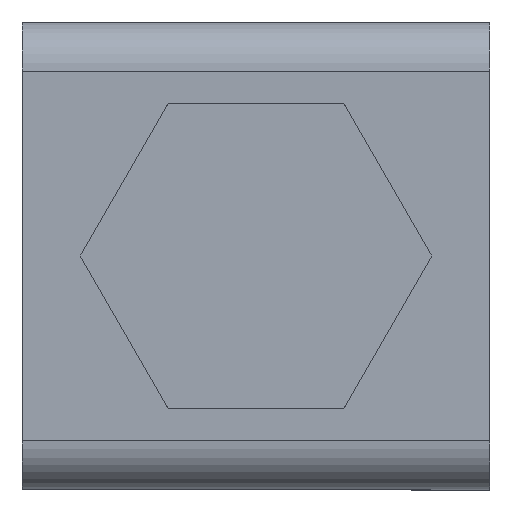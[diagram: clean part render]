
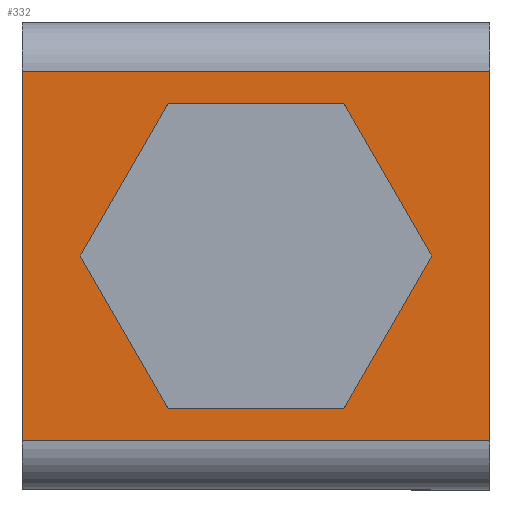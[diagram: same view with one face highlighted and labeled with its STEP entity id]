
A CAD part, front view. The second image highlights one B-rep face of the part: STEP entity #332.
In plain terms, the highlighted planar face has unit normal (0, -1, 0) as drawn and (0, 1, 0) by its records, which use the part's own axes.
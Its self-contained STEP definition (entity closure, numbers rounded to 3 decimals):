
#1 = VERTEX_POINT ( 'NONE', #73 ) ;
#7 = VERTEX_POINT ( 'NONE', #1986 ) ;
#26 = VERTEX_POINT ( 'NONE', #867 ) ;
#33 = VERTEX_POINT ( 'NONE', #874 ) ;
#73 = CARTESIAN_POINT ( 'NONE',  ( 7.9, 7., 10. ) ) ;
#151 = CARTESIAN_POINT ( 'NONE',  ( -7.9, 7., -10. ) ) ;
#152 = CARTESIAN_POINT ( 'NONE',  ( 7.9, 7., -10. ) ) ;
#332 = ADVANCED_FACE ( 'NONE', ( #1614, #1615 ), #1619, .T. ) ;
#441 = ORIENTED_EDGE ( 'NONE', *, *, #2204, .F. ) ;
#442 = ORIENTED_EDGE ( 'NONE', *, *, #2206, .F. ) ;
#443 = ORIENTED_EDGE ( 'NONE', *, *, #2237, .F. ) ;
#444 = ORIENTED_EDGE ( 'NONE', *, *, #2217, .F. ) ;
#445 = ORIENTED_EDGE ( 'NONE', *, *, #2180, .T. ) ;
#446 = ORIENTED_EDGE ( 'NONE', *, *, #2181, .T. ) ;
#472 = VECTOR ( 'NONE', #1413, 1000. ) ;
#538 = CIRCLE ( 'NONE', #544, 4.25 ) ;
#544 = AXIS2_PLACEMENT_3D ( 'NONE', #1376, #1377, #1378 ) ;
#546 = CIRCLE ( 'NONE', #552, 4.25 ) ;
#550 = VECTOR ( 'NONE', #1482, 1000. ) ;
#552 = AXIS2_PLACEMENT_3D ( 'NONE', #1381, #1382, #1383 ) ;
#867 = CARTESIAN_POINT ( 'NONE',  ( -7.9, 7., 10. ) ) ;
#874 = CARTESIAN_POINT ( 'NONE',  ( 0., 7., 4.25 ) ) ;
#1009 = VERTEX_POINT ( 'NONE', #151 ) ;
#1010 = VERTEX_POINT ( 'NONE', #152 ) ;
#1295 = LINE ( 'NONE', #1304, #1832 ) ;
#1298 = LINE ( 'NONE', #1306, #1831 ) ;
#1304 = CARTESIAN_POINT ( 'NONE',  ( -10., 7., 10. ) ) ;
#1305 = DIRECTION ( 'NONE',  ( 1., 0., 0. ) ) ;
#1306 = CARTESIAN_POINT ( 'NONE',  ( 7.9, 7., 10. ) ) ;
#1307 = DIRECTION ( 'NONE',  ( 0., 0., -1. ) ) ;
#1376 = CARTESIAN_POINT ( 'NONE',  ( 0., 7., 0. ) ) ;
#1377 = DIRECTION ( 'NONE',  ( 0., 1., 0. ) ) ;
#1378 = DIRECTION ( 'NONE',  ( 0., 0., 1. ) ) ;
#1381 = CARTESIAN_POINT ( 'NONE',  ( 0., 7., 0. ) ) ;
#1382 = DIRECTION ( 'NONE',  ( 0., 1., 0. ) ) ;
#1383 = DIRECTION ( 'NONE',  ( 0., 0., 1. ) ) ;
#1411 = LINE ( 'NONE', #1412, #472 ) ;
#1412 = CARTESIAN_POINT ( 'NONE',  ( -7.9, 7., 10. ) ) ;
#1413 = DIRECTION ( 'NONE',  ( 0., 0., -1. ) ) ;
#1480 = LINE ( 'NONE', #1481, #550 ) ;
#1481 = CARTESIAN_POINT ( 'NONE',  ( -10., 7., -10. ) ) ;
#1482 = DIRECTION ( 'NONE',  ( 1., 0., 0. ) ) ;
#1611 = CARTESIAN_POINT ( 'NONE',  ( -10., 7., 10. ) ) ;
#1614 = FACE_BOUND ( 'NONE', #1944, .T. ) ;
#1615 = FACE_OUTER_BOUND ( 'NONE', #1946, .T. ) ;
#1619 = PLANE ( 'NONE',  #1739 ) ;
#1621 = DIRECTION ( 'NONE',  ( 0., 1., 0. ) ) ;
#1622 = DIRECTION ( 'NONE',  ( 0., 0., 1. ) ) ;
#1739 = AXIS2_PLACEMENT_3D ( 'NONE', #1611, #1621, #1622 ) ;
#1831 = VECTOR ( 'NONE', #1307, 1000. ) ;
#1832 = VECTOR ( 'NONE', #1305, 1000. ) ;
#1944 = EDGE_LOOP ( 'NONE', ( #441, #442 ) ) ;
#1946 = EDGE_LOOP ( 'NONE', ( #443, #444, #445, #446 ) ) ;
#1986 = CARTESIAN_POINT ( 'NONE',  ( 0., 7., -4.25 ) ) ;
#2180 = EDGE_CURVE ( 'NONE', #26, #1, #1295, .T. ) ;
#2181 = EDGE_CURVE ( 'NONE', #1, #1010, #1298, .T. ) ;
#2204 = EDGE_CURVE ( 'NONE', #33, #7, #538, .T. ) ;
#2206 = EDGE_CURVE ( 'NONE', #7, #33, #546, .T. ) ;
#2217 = EDGE_CURVE ( 'NONE', #26, #1009, #1411, .T. ) ;
#2237 = EDGE_CURVE ( 'NONE', #1009, #1010, #1480, .T. ) ;
